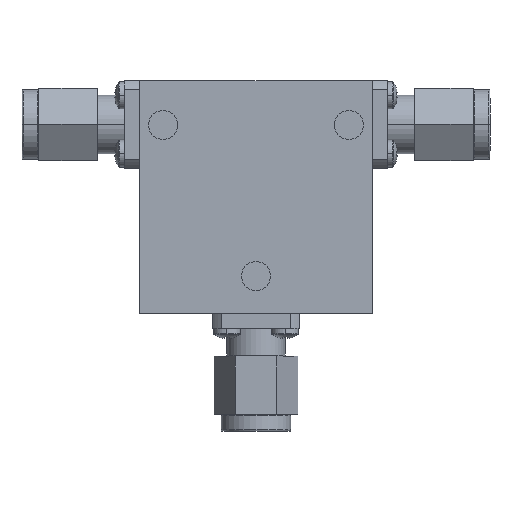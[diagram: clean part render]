
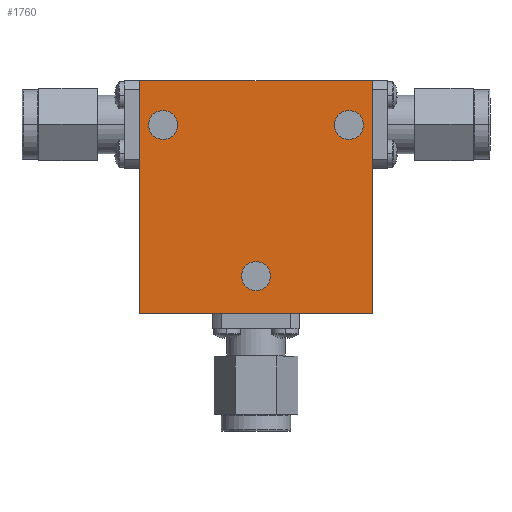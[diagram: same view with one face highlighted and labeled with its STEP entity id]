
A CAD part, top view. The second image highlights one B-rep face of the part: STEP entity #1760.
In plain terms, the highlighted planar face has unit normal (0, 0, 1) as drawn and (0, 0, -1) by its records, which use the part's own axes.
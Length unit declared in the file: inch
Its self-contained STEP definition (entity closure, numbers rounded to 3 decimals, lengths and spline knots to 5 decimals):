
#19 = CIRCLE ( 'NONE', #412, 0.0625 ) ;
#21 = VECTOR ( 'NONE', #2774, 39.37008 ) ;
#23 = CARTESIAN_POINT ( 'NONE',  ( 0., 0., -0.19 ) ) ;
#48 = DIRECTION ( 'NONE',  ( 0., 0., 1. ) ) ;
#131 = DIRECTION ( 'NONE',  ( 1., 0., 0. ) ) ;
#143 = LINE ( 'NONE', #326, #2810 ) ;
#246 = DIRECTION ( 'NONE',  ( 1., 0., 0. ) ) ;
#254 = VERTEX_POINT ( 'NONE', #1762 ) ;
#257 = CARTESIAN_POINT ( 'NONE',  ( 0.0625, -0.34, -0.19 ) ) ;
#310 = DIRECTION ( 'NONE',  ( 1., 0., 0. ) ) ;
#326 = CARTESIAN_POINT ( 'NONE',  ( -0.5, -0.5, -0.19 ) ) ;
#350 = FACE_OUTER_BOUND ( 'NONE', #2685, .T. ) ;
#412 = AXIS2_PLACEMENT_3D ( 'NONE', #609, #1859, #1892 ) ;
#555 = DIRECTION ( 'NONE',  ( 1., 0., 0. ) ) ;
#575 = CARTESIAN_POINT ( 'NONE',  ( -0.5, -0.5, -0.19 ) ) ;
#582 = VERTEX_POINT ( 'NONE', #2305 ) ;
#609 = CARTESIAN_POINT ( 'NONE',  ( -0.4, 0.31, -0.19 ) ) ;
#642 = ORIENTED_EDGE ( 'NONE', *, *, #2477, .F. ) ;
#707 = ORIENTED_EDGE ( 'NONE', *, *, #959, .T. ) ;
#797 = CIRCLE ( 'NONE', #955, 0.0625 ) ;
#812 = CARTESIAN_POINT ( 'NONE',  ( 0.4625, 0.31, -0.19 ) ) ;
#944 = AXIS2_PLACEMENT_3D ( 'NONE', #3103, #1549, #1026 ) ;
#955 = AXIS2_PLACEMENT_3D ( 'NONE', #1421, #3205, #1134 ) ;
#959 = EDGE_CURVE ( 'NONE', #1338, #1384, #3101, .T. ) ;
#1024 = LINE ( 'NONE', #2002, #21 ) ;
#1026 = DIRECTION ( 'NONE',  ( 1., 0., 0. ) ) ;
#1050 = CARTESIAN_POINT ( 'NONE',  ( 0., -0.34, -0.19 ) ) ;
#1061 = ORIENTED_EDGE ( 'NONE', *, *, #2781, .F. ) ;
#1063 = AXIS2_PLACEMENT_3D ( 'NONE', #1601, #48, #555 ) ;
#1083 = EDGE_LOOP ( 'NONE', ( #1374, #707 ) ) ;
#1111 = EDGE_CURVE ( 'NONE', #2275, #3067, #797, .T. ) ;
#1115 = FACE_BOUND ( 'NONE', #1414, .T. ) ;
#1120 = ORIENTED_EDGE ( 'NONE', *, *, #3112, .T. ) ;
#1134 = DIRECTION ( 'NONE',  ( 1., 0., 0. ) ) ;
#1173 = CARTESIAN_POINT ( 'NONE',  ( -0.5, 0.5, -0.19 ) ) ;
#1196 = ORIENTED_EDGE ( 'NONE', *, *, #1111, .T. ) ;
#1234 = CIRCLE ( 'NONE', #944, 0.0625 ) ;
#1267 = CARTESIAN_POINT ( 'NONE',  ( -0.4625, 0.31, -0.19 ) ) ;
#1301 = VERTEX_POINT ( 'NONE', #1267 ) ;
#1335 = EDGE_CURVE ( 'NONE', #582, #2378, #2621, .T. ) ;
#1338 = VERTEX_POINT ( 'NONE', #3058 ) ;
#1341 = DIRECTION ( 'NONE',  ( 1., 0., 0. ) ) ;
#1374 = ORIENTED_EDGE ( 'NONE', *, *, #2682, .T. ) ;
#1384 = VERTEX_POINT ( 'NONE', #257 ) ;
#1413 = DIRECTION ( 'NONE',  ( 0., 0., 1. ) ) ;
#1414 = EDGE_LOOP ( 'NONE', ( #2408, #1120 ) ) ;
#1416 = VERTEX_POINT ( 'NONE', #1830 ) ;
#1421 = CARTESIAN_POINT ( 'NONE',  ( 0.4, 0.31, -0.19 ) ) ;
#1549 = DIRECTION ( 'NONE',  ( 0., 0., 1. ) ) ;
#1576 = ORIENTED_EDGE ( 'NONE', *, *, #1335, .F. ) ;
#1601 = CARTESIAN_POINT ( 'NONE',  ( 0., -0.34, -0.19 ) ) ;
#1760 = ADVANCED_FACE ( 'NONE', ( #2661, #2857, #1115, #350 ), #1797, .F. ) ;
#1762 = CARTESIAN_POINT ( 'NONE',  ( 0.5, -0.5, -0.19 ) ) ;
#1764 = CARTESIAN_POINT ( 'NONE',  ( -0.5, 0.5, -0.19 ) ) ;
#1797 = PLANE ( 'NONE',  #2875 ) ;
#1830 = CARTESIAN_POINT ( 'NONE',  ( -0.3375, 0.31, -0.19 ) ) ;
#1859 = DIRECTION ( 'NONE',  ( 0., 0., 1. ) ) ;
#1890 = VERTEX_POINT ( 'NONE', #575 ) ;
#1892 = DIRECTION ( 'NONE',  ( 1., 0., 0. ) ) ;
#1893 = CARTESIAN_POINT ( 'NONE',  ( -0.4, 0.31, -0.19 ) ) ;
#1929 = ORIENTED_EDGE ( 'NONE', *, *, #3154, .F. ) ;
#1954 = EDGE_LOOP ( 'NONE', ( #2096, #1196 ) ) ;
#2002 = CARTESIAN_POINT ( 'NONE',  ( -0.5, 0.5, -0.19 ) ) ;
#2019 = AXIS2_PLACEMENT_3D ( 'NONE', #1893, #1413, #131 ) ;
#2029 = DIRECTION ( 'NONE',  ( -1., 0., 0. ) ) ;
#2046 = DIRECTION ( 'NONE',  ( 0., 0., 1. ) ) ;
#2096 = ORIENTED_EDGE ( 'NONE', *, *, #2570, .T. ) ;
#2117 = DIRECTION ( 'NONE',  ( 0., 0., 1. ) ) ;
#2275 = VERTEX_POINT ( 'NONE', #2729 ) ;
#2305 = CARTESIAN_POINT ( 'NONE',  ( 0.5, 0.5, -0.19 ) ) ;
#2378 = VERTEX_POINT ( 'NONE', #1173 ) ;
#2408 = ORIENTED_EDGE ( 'NONE', *, *, #2884, .T. ) ;
#2477 = EDGE_CURVE ( 'NONE', #2378, #1890, #1024, .T. ) ;
#2570 = EDGE_CURVE ( 'NONE', #3067, #2275, #1234, .T. ) ;
#2604 = DIRECTION ( 'NONE',  ( 0., 1., 0. ) ) ;
#2621 = LINE ( 'NONE', #1764, #2783 ) ;
#2661 = FACE_BOUND ( 'NONE', #1954, .T. ) ;
#2682 = EDGE_CURVE ( 'NONE', #1384, #1338, #2852, .T. ) ;
#2685 = EDGE_LOOP ( 'NONE', ( #1061, #1929, #642, #1576 ) ) ;
#2729 = CARTESIAN_POINT ( 'NONE',  ( 0.3375, 0.31, -0.19 ) ) ;
#2731 = LINE ( 'NONE', #2894, #3239 ) ;
#2774 = DIRECTION ( 'NONE',  ( 0., -1., 0. ) ) ;
#2781 = EDGE_CURVE ( 'NONE', #254, #582, #2731, .T. ) ;
#2783 = VECTOR ( 'NONE', #2029, 39.37008 ) ;
#2810 = VECTOR ( 'NONE', #1341, 39.37008 ) ;
#2852 = CIRCLE ( 'NONE', #3189, 0.0625 ) ;
#2857 = FACE_BOUND ( 'NONE', #1083, .T. ) ;
#2875 = AXIS2_PLACEMENT_3D ( 'NONE', #23, #2046, #246 ) ;
#2884 = EDGE_CURVE ( 'NONE', #1416, #1301, #3312, .T. ) ;
#2894 = CARTESIAN_POINT ( 'NONE',  ( 0.5, 0.5, -0.19 ) ) ;
#3058 = CARTESIAN_POINT ( 'NONE',  ( -0.0625, -0.34, -0.19 ) ) ;
#3067 = VERTEX_POINT ( 'NONE', #812 ) ;
#3101 = CIRCLE ( 'NONE', #1063, 0.0625 ) ;
#3103 = CARTESIAN_POINT ( 'NONE',  ( 0.4, 0.31, -0.19 ) ) ;
#3112 = EDGE_CURVE ( 'NONE', #1301, #1416, #19, .T. ) ;
#3154 = EDGE_CURVE ( 'NONE', #1890, #254, #143, .T. ) ;
#3189 = AXIS2_PLACEMENT_3D ( 'NONE', #1050, #2117, #310 ) ;
#3205 = DIRECTION ( 'NONE',  ( 0., 0., 1. ) ) ;
#3239 = VECTOR ( 'NONE', #2604, 39.37008 ) ;
#3312 = CIRCLE ( 'NONE', #2019, 0.0625 ) ;
